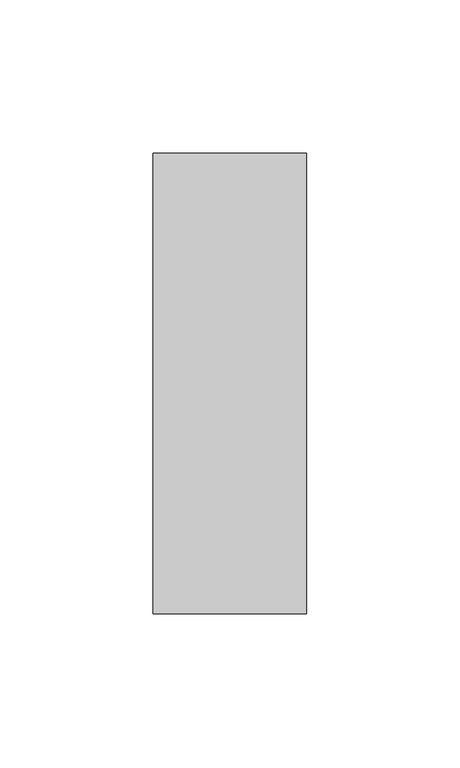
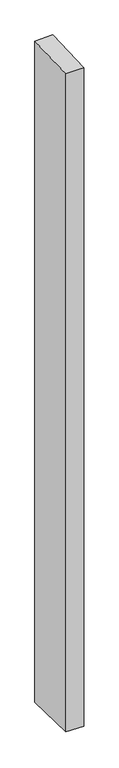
"""IFC4 building model written with IfcOpenShell, lengths in millimetres: member geometry, Прямоугольный импост : 50 x 150 мм."""

from ifc_helpers import new_model, si_unit, origin, place, context, project, spatial, faceted_brep, source, transform, mapped, element, save


def member_8a95d08b(model_context):
    return source(origin(), model_context, "Body", "Brep", [
        faceted_brep([(-25.0, 75.0, 2.485116), (25.0, 75.0, 3.4169423), (25.0, 75.0, -1954.9533169), (-25.0, 75.0, -1954.1799261), (-25.0, -75.0, -3.4169423), (-25.0, -75.0, -1950.7651415), (25.0, -75.0, -2.485116), (25.0, -75.0, -1951.5385323)], [[[0, 1, 2, 3]], [[4, 0, 3, 5]], [[6, 4, 5, 7]], [[1, 6, 7, 2]], [[1, 0, 4, 6]], [[2, 7, 5, 3]]]),
    ])


if __name__ == "__main__":
    model = new_model("IFC4")
    model_context = context("Model", 3, world=origin())
    ifc_project = project(units=[si_unit("LENGTHUNIT", "METRE", prefix="MILLI")], contexts=[model_context])
    site = spatial("IfcSite", under=ifc_project)
    building = spatial("IfcBuilding", under=site)
    placement = place(None, origin())
    member_shape = member_8a95d08b(model_context)
    element("IfcMember", 1, ObjectType="Прямоугольный импост : 50 x 150 мм", at=placement, inside=building, context=model_context, shape_type="MappedRepresentation", body=[
        mapped(member_shape, transform((0.0, 0.0, 0.0), x_axis=(1.0, 0.0, 0.0), y_axis=(0.0, 1.0, 0.0), z_axis=(0.0, 0.0, 1.0))),
    ])
    save(model, "model.ifc")
